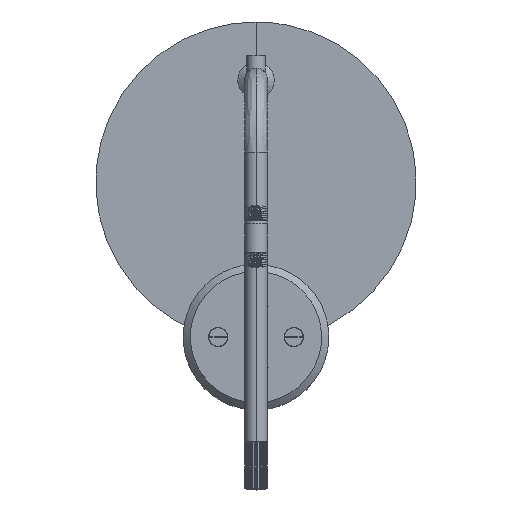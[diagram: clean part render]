
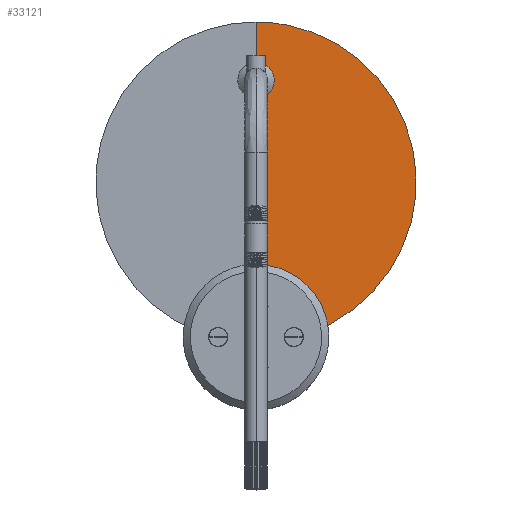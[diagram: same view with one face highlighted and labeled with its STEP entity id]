
A CAD part, top view. The second image highlights one B-rep face of the part: STEP entity #33121.
In plain terms, the highlighted free-form (B-spline) face has degree [1, 2] with [2, 5] control points.
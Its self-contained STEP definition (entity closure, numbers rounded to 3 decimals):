
#439 = VERTEX_POINT ( 'NONE', #11556 ) ;
#1138 = CARTESIAN_POINT ( 'NONE',  ( 701., 23., -81.2 ) ) ;
#5243 =( BOUNDED_SURFACE ( )  B_SPLINE_SURFACE ( 1, 2, ( 
 ( #1138, #15189, #32542, #40351, #26038 ),
 ( #18419, #18643, #36647, #26265, #32761 ) ),
 .UNSPECIFIED., .F., .F., .T. ) 
 B_SPLINE_SURFACE_WITH_KNOTS ( ( 2, 2 ),
 ( 3, 2, 3 ),
 ( 0., 110. ),
 ( 0., 172.788, 345.575 ),
 .UNSPECIFIED. ) 
 GEOMETRIC_REPRESENTATION_ITEM ( )  RATIONAL_B_SPLINE_SURFACE ( (
 ( 1., 0.707, 1., 0.707, 1.),
 ( 1., 0.707, 1., 0.707, 1.) ) ) 
 REPRESENTATION_ITEM ( '' )  SURFACE ( )  );
#5360 = CARTESIAN_POINT ( 'NONE',  ( 811., 133., -81.2 ) ) ;
#6748 = ORIENTED_EDGE ( 'NONE', *, *, #12864, .T. ) ;
#8832 = EDGE_LOOP ( 'NONE', ( #6748, #12810, #24742 ) ) ;
#8866 =( BOUNDED_CURVE ( )  B_SPLINE_CURVE ( 2, ( #23323, #19851, #23091, #5360, #33059 ),
 .UNSPECIFIED., .F., .T. ) 
 B_SPLINE_CURVE_WITH_KNOTS ( ( 3, 2, 3 ),
 ( 0., 172.788, 345.575 ),
 .UNSPECIFIED. ) 
 CURVE ( )  GEOMETRIC_REPRESENTATION_ITEM ( )  RATIONAL_B_SPLINE_CURVE ( ( 1., 0.707, 1., 0.707, 1. ) ) 
 REPRESENTATION_ITEM ( '' )  );
#10608 = FACE_OUTER_BOUND ( 'NONE', #8832, .T. ) ;
#11556 = CARTESIAN_POINT ( 'NONE',  ( 701., 23., -81.2 ) ) ;
#12810 = ORIENTED_EDGE ( 'NONE', *, *, #37060, .T. ) ;
#12864 = EDGE_CURVE ( 'NONE', #439, #17234, #22287, .T. ) ;
#13313 = CARTESIAN_POINT ( 'NONE',  ( 701., -87., -81.2 ) ) ;
#15189 = CARTESIAN_POINT ( 'NONE',  ( 701., 23., -81.2 ) ) ;
#16212 = CARTESIAN_POINT ( 'NONE',  ( 701., 133., -81.2 ) ) ;
#17234 = VERTEX_POINT ( 'NONE', #32910 ) ;
#18419 = CARTESIAN_POINT ( 'NONE',  ( 701., -87., -81.2 ) ) ;
#18643 = CARTESIAN_POINT ( 'NONE',  ( 811., -87., -81.2 ) ) ;
#19851 = CARTESIAN_POINT ( 'NONE',  ( 811., -87., -81.2 ) ) ;
#22287 = B_SPLINE_CURVE_WITH_KNOTS ( 'NONE', 1,
 ( #34566, #13313 ),
 .UNSPECIFIED., .F., .F.,
 ( 2, 2 ),
 ( 0., 110. ),
 .UNSPECIFIED. ) ;
#23091 = CARTESIAN_POINT ( 'NONE',  ( 811., 23., -81.2 ) ) ;
#23323 = CARTESIAN_POINT ( 'NONE',  ( 701., -87., -81.2 ) ) ;
#24742 = ORIENTED_EDGE ( 'NONE', *, *, #37067, .F. ) ;
#26038 = CARTESIAN_POINT ( 'NONE',  ( 701., 23., -81.2 ) ) ;
#26265 = CARTESIAN_POINT ( 'NONE',  ( 811., 133., -81.2 ) ) ;
#30035 = CARTESIAN_POINT ( 'NONE',  ( 701., 23., -81.2 ) ) ;
#32542 = CARTESIAN_POINT ( 'NONE',  ( 701., 23., -81.2 ) ) ;
#32761 = CARTESIAN_POINT ( 'NONE',  ( 701., 133., -81.2 ) ) ;
#32910 = CARTESIAN_POINT ( 'NONE',  ( 701., -87., -81.2 ) ) ;
#33059 = CARTESIAN_POINT ( 'NONE',  ( 701., 133., -81.2 ) ) ;
#33121 = ADVANCED_FACE ( 'NONE', ( #10608 ), #5243, .T. ) ;
#34566 = CARTESIAN_POINT ( 'NONE',  ( 701., 23., -81.2 ) ) ;
#36647 = CARTESIAN_POINT ( 'NONE',  ( 811., 23., -81.2 ) ) ;
#37060 = EDGE_CURVE ( 'NONE', #17234, #45521, #8866, .T. ) ;
#37067 = EDGE_CURVE ( 'NONE', #439, #45521, #42484, .T. ) ;
#37187 = CARTESIAN_POINT ( 'NONE',  ( 701., 133., -81.2 ) ) ;
#40351 = CARTESIAN_POINT ( 'NONE',  ( 701., 23., -81.2 ) ) ;
#42484 = B_SPLINE_CURVE_WITH_KNOTS ( 'NONE', 1,
 ( #30035, #37187 ),
 .UNSPECIFIED., .F., .F.,
 ( 2, 2 ),
 ( 0., 110. ),
 .UNSPECIFIED. ) ;
#45521 = VERTEX_POINT ( 'NONE', #16212 ) ;
